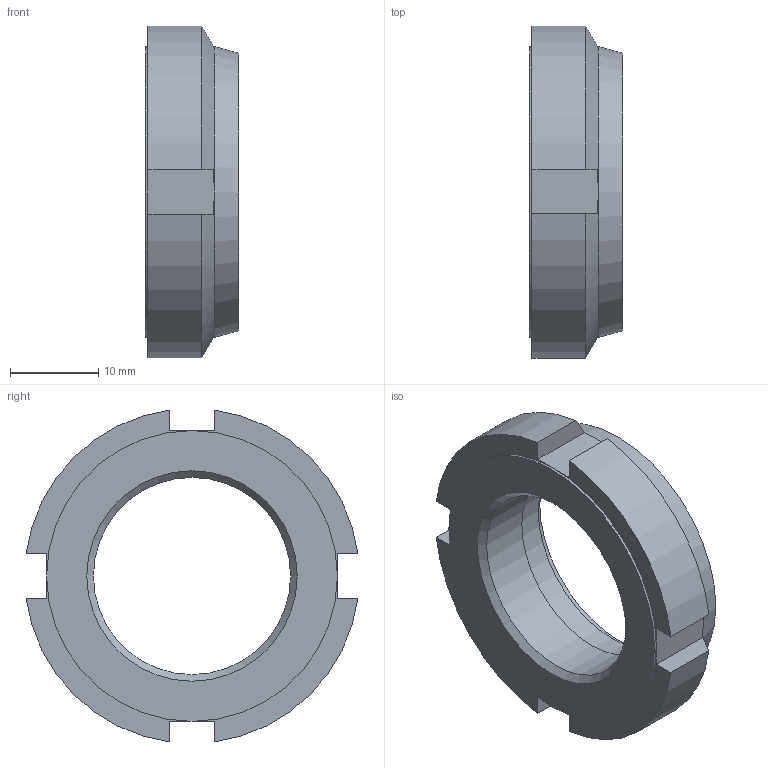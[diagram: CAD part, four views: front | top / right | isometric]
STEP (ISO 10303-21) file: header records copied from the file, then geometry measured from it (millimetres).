
FILE_DESCRIPTION( ( 'STEP AP203' ), '1' );
FILE_NAME( 'C:/Temp/Ganter_Step_05_03_2020/data/3_2/gn1804_1/Slotted locknut self-locking GN 1804.1-M24x1,5.stp', '2020-03-13T05:25:15', ( 'License CC BY-ND 4.0' ), ( 'CADENAS' ), ' ', 'PARTsolutions', ' ' );
FILE_SCHEMA( ( 'CONFIG_CONTROL_DESIGN' ) );
Length unit declared in the file: millimetre
Products named in the file (1): _Slotted locknut self-locking GN 1804.1-M24x1,5
Bounding box: 10.6 x 37.67 x 37.67 mm (x, y, z)
Volume: 6108.9 mm3; surface area: 3281.1 mm2
Topology: 1 solids, 1 shells, 34 faces, 79 edges, 49 vertices
Faces by surface type: plane 20, cylinder 8, cone 6
Full cylindrical faces by diameter (mm): 22.376 x1, 23.5 x1, 25 x1, 33 x1
Entity records: 994 total; most frequent: CARTESIAN_POINT 205, DIRECTION 152, ORIENTED_EDGE 146, EDGE_CURVE 73, AXIS2_PLACEMENT_3D 60, VERTEX_POINT 49, EDGE_LOOP 44, FACE_OUTER_BOUND 38
